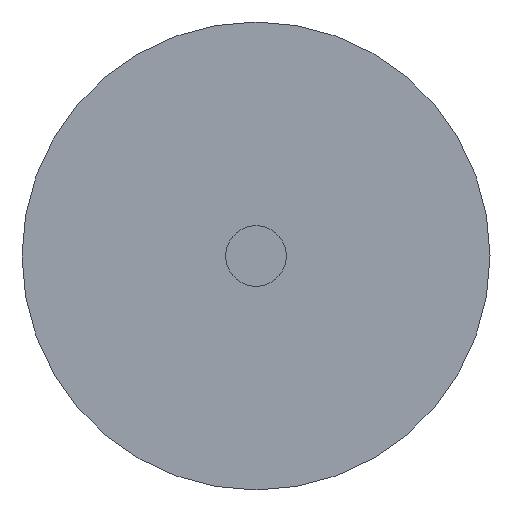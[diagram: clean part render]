
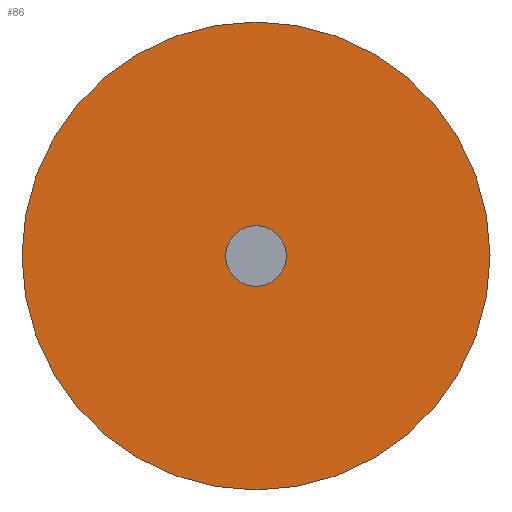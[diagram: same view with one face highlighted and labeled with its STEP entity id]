
A CAD part, left-side view. The second image highlights one B-rep face of the part: STEP entity #86.
In plain terms, the highlighted planar face has unit normal (-1, 0, 0).
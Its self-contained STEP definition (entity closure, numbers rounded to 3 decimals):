
#16=PLANE('',#101);
#26=FACE_OUTER_BOUND('',#36,.T.);
#36=EDGE_LOOP('',(#66));
#47=CIRCLE('',#100,3.935);
#53=VERTEX_POINT('',#149);
#59=EDGE_CURVE('',#53,#53,#47,.T.);
#66=ORIENTED_EDGE('',*,*,#59,.T.);
#86=ADVANCED_FACE('',(#26),#16,.F.);
#100=AXIS2_PLACEMENT_3D('',#150,#119,#120);
#101=AXIS2_PLACEMENT_3D('',#151,#121,#122);
#119=DIRECTION('center_axis',(-1.,0.,0.));
#120=DIRECTION('ref_axis',(0.,-1.,0.));
#121=DIRECTION('center_axis',(1.,0.,0.));
#122=DIRECTION('ref_axis',(0.,0.,-1.));
#149=CARTESIAN_POINT('',(0.,3.935,0.));
#150=CARTESIAN_POINT('Origin',(0.,0.,0.));
#151=CARTESIAN_POINT('Origin',(0.,0.,0.));
